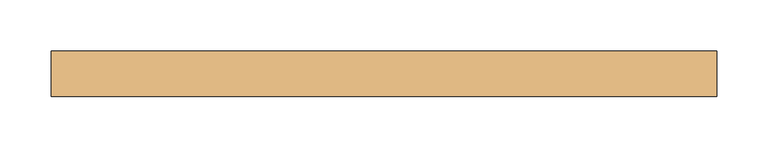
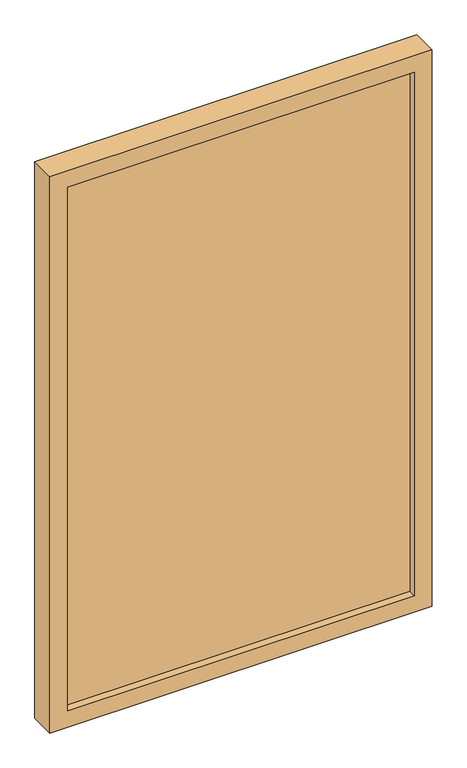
"""IFC4 building model written with IfcOpenShell, lengths in millimetres: door geometry, PUERTA_REJA_BAJA : PUERTA_REJA_BAJA."""

import ifcopenshell
import ifcopenshell.guid

model = None  # the IFC model being written
_history = None  # IfcOwnerHistory: only IFC2X3 demands one
_inside = {}  # id of a spatial element -> (the spatial element, [elements in it])
_under = {}  # id of a project, library or spatial element -> (it, [spatial elements below it])
_declared = {}  # id of a project -> (the project, [libraries it declares])
_typed = {}  # id of a type object -> (the type object, [elements of that type])
_made_of = {}  # id of a material, layer set ... -> (it, [elements and type objects made of it])


def new_model(schema):
    """Start an empty IFC model of exactly this schema.

    Asked for "IFC4X3", IfcOpenShell would pick the latest addendum, in which some entities
    have other attributes; the version numbers below select the first issue.
    IFC2X3 requires an IfcOwnerHistory on every rooted entity: one is made here for all.
    """
    global model, _history
    if schema == "IFC4X3":
        model = ifcopenshell.file(schema_version=(4, 3, 0, 0))
    else:
        model = ifcopenshell.file(schema=schema)
    _inside.clear()
    _under.clear()
    _declared.clear()
    _typed.clear()
    _made_of.clear()
    _history = None
    if model.schema == "IFC2X3":
        org = make("IfcOrganization", Name="unknown")
        user = make(
            "IfcPersonAndOrganization",
            ThePerson=make("IfcPerson", FamilyName="unknown"),
            TheOrganization=org,
        )
        app = make(
            "IfcApplication",
            ApplicationDeveloper=org,
            Version="unknown",
            ApplicationFullName="unknown",
            ApplicationIdentifier="unknown",
        )
        _history = make(
            "IfcOwnerHistory",
            OwningUser=user,
            OwningApplication=app,
            ChangeAction="ADDED",
            CreationDate=0,
        )
    return model


def make(cls, **values):
    """One entity of the class cls with the attributes given. An attribute that is None is left unset."""
    return model.create_entity(
        cls, **{name: value for name, value in values.items() if value is not None}
    )


def rooted(cls, **values):
    """An entity with a GlobalId (a new one), such as an element, a storey or a relation."""
    return make(cls, GlobalId=ifcopenshell.guid.new(), OwnerHistory=_history, **values)


def si_unit(unit_type, name, prefix=None):
    """IfcSIUnit, for example si_unit("LENGTHUNIT", "METRE", prefix="MILLI")."""
    return make("IfcSIUnit", UnitType=unit_type, Prefix=prefix, Name=name)


def assignment(units):
    """IfcUnitAssignment: the units of a project."""
    return None if units is None else make("IfcUnitAssignment", Units=units)


def point(xyz):
    """IfcCartesianPoint."""
    return None if xyz is None else make("IfcCartesianPoint", Coordinates=xyz)


def direction(xyz):
    """IfcDirection."""
    return None if xyz is None else make("IfcDirection", DirectionRatios=xyz)


def frame(location, z_axis=None, x_axis=None):
    """IfcAxis2Placement3D, a coordinate frame: its origin and axes. An axis left out is left unset."""
    return make(
        "IfcAxis2Placement3D",
        Location=point(location),
        Axis=direction(z_axis),
        RefDirection=direction(x_axis),
    )


def origin():
    """The frame at (0, 0, 0) with its axes left unset."""
    return frame((0.0, 0.0, 0.0))


def place(relative_to, where):
    """IfcLocalPlacement: puts the frame where relative to a parent placement (None: the world)."""
    return make(
        "IfcLocalPlacement", PlacementRelTo=relative_to, RelativePlacement=where
    )


def context(
    kind, dimensions, precision=None, world=None, true_north=None, identifier=None
):
    """IfcGeometricRepresentationContext, for example the 3D "Model" context."""
    return make(
        "IfcGeometricRepresentationContext",
        ContextIdentifier=identifier,
        ContextType=kind,
        CoordinateSpaceDimension=dimensions,
        Precision=precision,
        WorldCoordinateSystem=world,
        TrueNorth=true_north,
    )


def project(units=None, contexts=None):
    """IfcProject with its units and contexts."""
    return rooted(
        "IfcProject",
        Name="project",
        RepresentationContexts=contexts,
        UnitsInContext=assignment(units),
    )


def spatial(cls, under=None, at=None, **own):
    """A site, building, storey or space (cls), placed at a placement, below another one or the project."""
    s = rooted(cls, ObjectPlacement=at, **own)
    if under is not None:
        _under.setdefault(under.id(), (under, []))[1].append(s)
    return s


def polyline(points):
    """IfcPolyline through the points."""
    return make("IfcPolyline", Points=[point(p) for p in points])


def outline(outer, holes=None, kind="AREA"):
    """IfcArbitraryClosedProfileDef: a profile drawn as a closed curve; with holes, ...WithVoids."""
    if holes is None:
        return make("IfcArbitraryClosedProfileDef", ProfileType=kind, OuterCurve=outer)
    return make(
        "IfcArbitraryProfileDefWithVoids",
        ProfileType=kind,
        OuterCurve=outer,
        InnerCurves=holes,
    )


def extrude(swept, where, along, depth):
    """IfcExtrudedAreaSolid: the profile swept, set in the frame where, extruded along a direction by depth."""
    return make(
        "IfcExtrudedAreaSolid",
        SweptArea=swept,
        Position=where,
        ExtrudedDirection=direction(along),
        Depth=depth,
    )


def shape(context_of_items, identifier, shape_type, items):
    """IfcShapeRepresentation: the items that make up one representation, for example the "Body"."""
    return make(
        "IfcShapeRepresentation",
        ContextOfItems=context_of_items,
        RepresentationIdentifier=identifier,
        RepresentationType=shape_type,
        Items=items,
    )


def source(mapping_origin, context_of_items, identifier, shape_type, items):
    """IfcRepresentationMap: a shape defined once, which mapped items show again and again."""
    return make(
        "IfcRepresentationMap",
        MappingOrigin=mapping_origin,
        MappedRepresentation=shape(context_of_items, identifier, shape_type, items),
    )


def transform(
    local_origin,
    x_axis=None,
    y_axis=None,
    z_axis=None,
    scale=None,
    scale2=None,
    scale3=None,
    uniform=True,
):
    """IfcCartesianTransformationOperator3D, or its non-uniform kind. x_axis, y_axis, z_axis: its Axis1, 2, 3."""
    if uniform:
        return make(
            "IfcCartesianTransformationOperator3D",
            Axis1=direction(x_axis),
            Axis2=direction(y_axis),
            LocalOrigin=point(local_origin),
            Scale=scale,
            Axis3=direction(z_axis),
        )
    return make(
        "IfcCartesianTransformationOperator3DnonUniform",
        Axis1=direction(x_axis),
        Axis2=direction(y_axis),
        LocalOrigin=point(local_origin),
        Scale=scale,
        Axis3=direction(z_axis),
        Scale2=scale2,
        Scale3=scale3,
    )


def mapped(mapping_source, mapping_target):
    """IfcMappedItem: shows the shape of a source again, moved by a transform."""
    return make(
        "IfcMappedItem", MappingSource=mapping_source, MappingTarget=mapping_target
    )


def made_of(thing, what):
    """Note that an element or type object is made of a material, layer set ...; save() writes the relation."""
    if what is not None:
        _made_of.setdefault(what.id(), (what, []))[1].append(thing)
    return thing


def element(
    cls,
    number,
    at=None,
    inside=None,
    cuts=None,
    type_object=None,
    material=None,
    context=None,
    identifier="Body",
    shape_type=None,
    held_by="IfcProductDefinitionShape",
    body=None,
    shapes=None,
    **own,
):
    """One element of the class cls, such as IfcWall. Its Tag is "e" and its number.

    at: its placement. inside: the storey or other place that contains it. cuts: it is an
    opening in that element (IfcRelVoidsElement). A single representation is given by context,
    identifier, shape_type and body (its items); several are given by shapes. held_by: the class
    of the entity that holds the representations. save() writes the other relations.
    """
    e = rooted(cls, Tag="e%d" % number, ObjectPlacement=at, **own)
    if body is not None:
        shapes = [shape(context, identifier, shape_type, body)]
    if shapes is not None:
        e.Representation = make(held_by, Representations=shapes)
    if inside is not None:
        _inside.setdefault(inside.id(), (inside, []))[1].append(e)
    if cuts is not None:
        rooted(
            "IfcRelVoidsElement", RelatingBuildingElement=cuts, RelatedOpeningElement=e
        )
    if type_object is not None:
        _typed.setdefault(type_object.id(), (type_object, []))[1].append(e)
    return made_of(e, material)


def aggregate(whole, parts):
    """IfcRelAggregates: a whole, such as a stair, and the parts it consists of."""
    return rooted("IfcRelAggregates", RelatingObject=whole, RelatedObjects=parts)


def save(model, path):
    """Write the relations noted so far, then the file.

    IfcRelAggregates (storeys below a building ...), IfcRelContainedInSpatialStructure (elements
    in a storey), IfcRelDefinesByType, IfcRelAssociatesMaterial and IfcRelDeclares: one each for
    every whole, place, type object, material and project.
    """
    for whole, parts in _under.values():
        aggregate(whole, parts)
    for where, things in _inside.values():
        rooted(
            "IfcRelContainedInSpatialStructure",
            RelatedElements=things,
            RelatingStructure=where,
        )
    for kind, things in _typed.values():
        rooted("IfcRelDefinesByType", RelatedObjects=things, RelatingType=kind)
    for what, things in _made_of.values():
        rooted("IfcRelAssociatesMaterial", RelatedObjects=things, RelatingMaterial=what)
    for by, libraries in _declared.values():
        rooted("IfcRelDeclares", RelatingContext=by, RelatedDefinitions=libraries)
    model.write(path)


def door_091492a4(model_context):
    return source(origin(), model_context, "Body", "SweptSolid", [
        extrude(outline(polyline([(294.8936226, -28.3), (294.8936226, -47.3), (-294.8936226, -47.3), (-294.8936226, -28.3), (294.8936226, -28.3)])), frame((0.0, 0.0, 30.0), z_axis=(0.0, 0.0, 1.0), x_axis=(1.0, 0.0, 0.0)), (0.0, 0.0, 1.0), 940.0),
        extrude(outline(polyline([(1000.0, -324.8936226), (0.0, -324.8936226), (0.0, 324.8936226), (1000.0, 324.8936226), (1000.0, -324.8936226)]), holes=[polyline([(970.0, -294.8936226), (970.0, 294.8936226), (30.0, 294.8936226), (30.0, -294.8936226), (970.0, -294.8936226)])]), frame((0.0, -60.0, 0.0), z_axis=(0.0, 1.0, 0.0), x_axis=(0.0, 0.0, 1.0)), (0.0, 0.0, 1.0), 44.4),
    ])


if __name__ == "__main__":
    model = new_model("IFC4")
    model_context = context("Model", 3, world=origin())
    ifc_project = project(units=[si_unit("LENGTHUNIT", "METRE", prefix="MILLI")], contexts=[model_context])
    site = spatial("IfcSite", under=ifc_project)
    building = spatial("IfcBuilding", under=site)
    placement = place(None, origin())
    door_shape = door_091492a4(model_context)
    element("IfcDoor", 1, ObjectType="PUERTA_REJA_BAJA : PUERTA_REJA_BAJA", at=placement, inside=building, context=model_context, shape_type="MappedRepresentation", body=[
        mapped(door_shape, transform((0.0, 0.0, 0.0), x_axis=(1.0, 0.0, 0.0), y_axis=(0.0, 1.0, 0.0), z_axis=(0.0, 0.0, 1.0))),
    ])
    save(model, "model.ifc")
